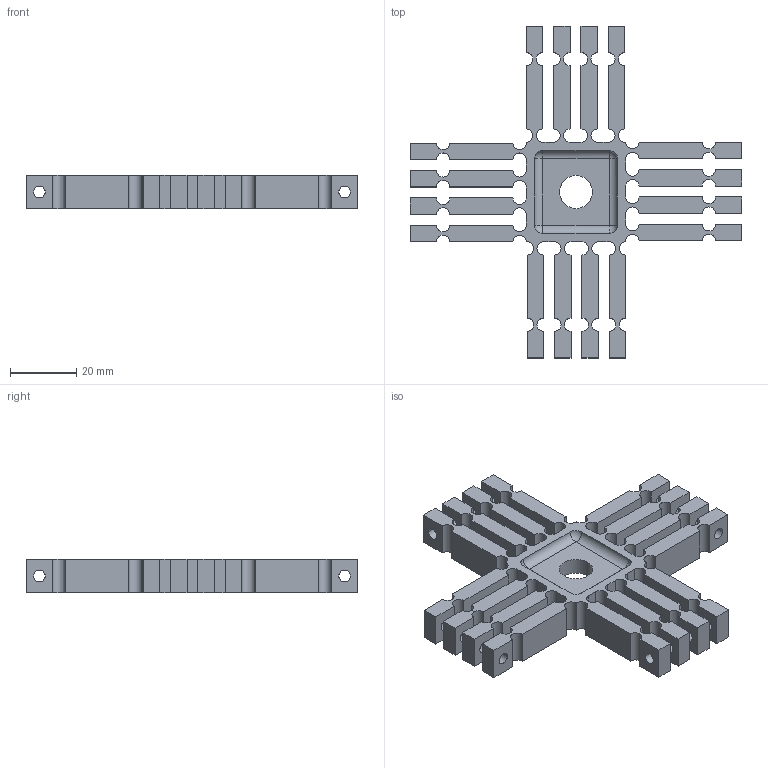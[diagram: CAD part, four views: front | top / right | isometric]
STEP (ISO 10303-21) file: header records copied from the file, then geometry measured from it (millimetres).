
FILE_DESCRIPTION(('CATIA V5 STEP Exchange'),'2;1');
FILE_NAME('E:\BE\Eprouvette_multiaxiale.stp','2016-04-11T14:38:01+00:00',('none'),('none'),'CATIA Version 5 Release 20 GA (IN-10)','CATIA V5 STEP AP203','none');
FILE_SCHEMA(('CONFIG_CONTROL_DESIGN'));
Length unit declared in the file: millimetre
Products named in the file (1): Eprouvette_multiaxiale
Bounding box: 100 x 100 x 10 mm (x, y, z)
Volume: 28965.5 mm3; surface area: 21296.3 mm2
Topology: 1 solids, 1 shells, 214 faces, 623 edges, 416 vertices
Faces by surface type: cylinder 106, plane 100, sphere 8
Entity records: 6901 total; most frequent: CARTESIAN_POINT 1501, ORIENTED_EDGE 1244, DIRECTION 865, EDGE_CURVE 622, VERTEX_POINT 412, VECTOR 403, LINE 403, AXIS2_PLACEMENT_3D 334
